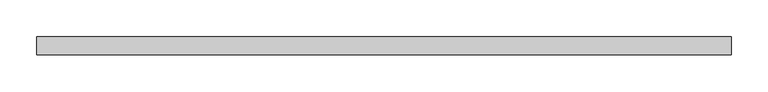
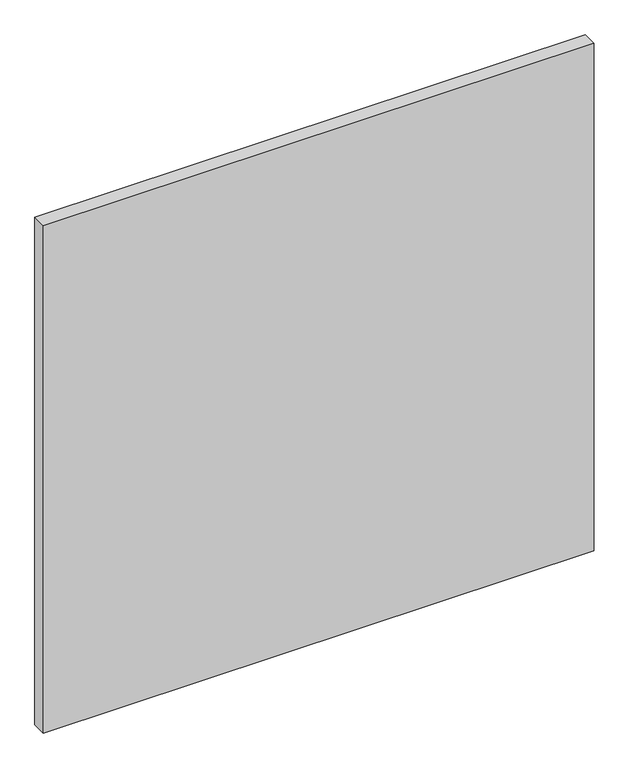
"""IFC4 building model written with IfcOpenShell, lengths in millimetres: plate geometry, Системная панель : ADSK_Cтеклопакет_25."""

import ifcopenshell
import ifcopenshell.guid

model = None  # the IFC model being written
_history = None  # IfcOwnerHistory: only IFC2X3 demands one
_inside = {}  # id of a spatial element -> (the spatial element, [elements in it])
_under = {}  # id of a project, library or spatial element -> (it, [spatial elements below it])
_declared = {}  # id of a project -> (the project, [libraries it declares])
_typed = {}  # id of a type object -> (the type object, [elements of that type])
_made_of = {}  # id of a material, layer set ... -> (it, [elements and type objects made of it])


def new_model(schema):
    """Start an empty IFC model of exactly this schema.

    Asked for "IFC4X3", IfcOpenShell would pick the latest addendum, in which some entities
    have other attributes; the version numbers below select the first issue.
    IFC2X3 requires an IfcOwnerHistory on every rooted entity: one is made here for all.
    """
    global model, _history
    if schema == "IFC4X3":
        model = ifcopenshell.file(schema_version=(4, 3, 0, 0))
    else:
        model = ifcopenshell.file(schema=schema)
    _inside.clear()
    _under.clear()
    _declared.clear()
    _typed.clear()
    _made_of.clear()
    _history = None
    if model.schema == "IFC2X3":
        org = make("IfcOrganization", Name="unknown")
        user = make(
            "IfcPersonAndOrganization",
            ThePerson=make("IfcPerson", FamilyName="unknown"),
            TheOrganization=org,
        )
        app = make(
            "IfcApplication",
            ApplicationDeveloper=org,
            Version="unknown",
            ApplicationFullName="unknown",
            ApplicationIdentifier="unknown",
        )
        _history = make(
            "IfcOwnerHistory",
            OwningUser=user,
            OwningApplication=app,
            ChangeAction="ADDED",
            CreationDate=0,
        )
    return model


def make(cls, **values):
    """One entity of the class cls with the attributes given. An attribute that is None is left unset."""
    return model.create_entity(
        cls, **{name: value for name, value in values.items() if value is not None}
    )


def rooted(cls, **values):
    """An entity with a GlobalId (a new one), such as an element, a storey or a relation."""
    return make(cls, GlobalId=ifcopenshell.guid.new(), OwnerHistory=_history, **values)


def si_unit(unit_type, name, prefix=None):
    """IfcSIUnit, for example si_unit("LENGTHUNIT", "METRE", prefix="MILLI")."""
    return make("IfcSIUnit", UnitType=unit_type, Prefix=prefix, Name=name)


def assignment(units):
    """IfcUnitAssignment: the units of a project."""
    return None if units is None else make("IfcUnitAssignment", Units=units)


def point(xyz):
    """IfcCartesianPoint."""
    return None if xyz is None else make("IfcCartesianPoint", Coordinates=xyz)


def direction(xyz):
    """IfcDirection."""
    return None if xyz is None else make("IfcDirection", DirectionRatios=xyz)


def frame(location, z_axis=None, x_axis=None):
    """IfcAxis2Placement3D, a coordinate frame: its origin and axes. An axis left out is left unset."""
    return make(
        "IfcAxis2Placement3D",
        Location=point(location),
        Axis=direction(z_axis),
        RefDirection=direction(x_axis),
    )


def origin():
    """The frame at (0, 0, 0) with its axes left unset."""
    return frame((0.0, 0.0, 0.0))


def origin_with_axes():
    """The frame at (0, 0, 0) with the z axis (0, 0, 1) and the x axis (1, 0, 0) written out."""
    return frame((0.0, 0.0, 0.0), z_axis=(0.0, 0.0, 1.0), x_axis=(1.0, 0.0, 0.0))


def place(relative_to, where):
    """IfcLocalPlacement: puts the frame where relative to a parent placement (None: the world)."""
    return make(
        "IfcLocalPlacement", PlacementRelTo=relative_to, RelativePlacement=where
    )


def context(
    kind, dimensions, precision=None, world=None, true_north=None, identifier=None
):
    """IfcGeometricRepresentationContext, for example the 3D "Model" context."""
    return make(
        "IfcGeometricRepresentationContext",
        ContextIdentifier=identifier,
        ContextType=kind,
        CoordinateSpaceDimension=dimensions,
        Precision=precision,
        WorldCoordinateSystem=world,
        TrueNorth=true_north,
    )


def project(units=None, contexts=None):
    """IfcProject with its units and contexts."""
    return rooted(
        "IfcProject",
        Name="project",
        RepresentationContexts=contexts,
        UnitsInContext=assignment(units),
    )


def spatial(cls, under=None, at=None, **own):
    """A site, building, storey or space (cls), placed at a placement, below another one or the project."""
    s = rooted(cls, ObjectPlacement=at, **own)
    if under is not None:
        _under.setdefault(under.id(), (under, []))[1].append(s)
    return s


def polyline(points):
    """IfcPolyline through the points."""
    return make("IfcPolyline", Points=[point(p) for p in points])


def outline(outer, holes=None, kind="AREA"):
    """IfcArbitraryClosedProfileDef: a profile drawn as a closed curve; with holes, ...WithVoids."""
    if holes is None:
        return make("IfcArbitraryClosedProfileDef", ProfileType=kind, OuterCurve=outer)
    return make(
        "IfcArbitraryProfileDefWithVoids",
        ProfileType=kind,
        OuterCurve=outer,
        InnerCurves=holes,
    )


def extrude(swept, where, along, depth):
    """IfcExtrudedAreaSolid: the profile swept, set in the frame where, extruded along a direction by depth."""
    return make(
        "IfcExtrudedAreaSolid",
        SweptArea=swept,
        Position=where,
        ExtrudedDirection=direction(along),
        Depth=depth,
    )


def shape(context_of_items, identifier, shape_type, items):
    """IfcShapeRepresentation: the items that make up one representation, for example the "Body"."""
    return make(
        "IfcShapeRepresentation",
        ContextOfItems=context_of_items,
        RepresentationIdentifier=identifier,
        RepresentationType=shape_type,
        Items=items,
    )


def source(mapping_origin, context_of_items, identifier, shape_type, items):
    """IfcRepresentationMap: a shape defined once, which mapped items show again and again."""
    return make(
        "IfcRepresentationMap",
        MappingOrigin=mapping_origin,
        MappedRepresentation=shape(context_of_items, identifier, shape_type, items),
    )


def transform(
    local_origin,
    x_axis=None,
    y_axis=None,
    z_axis=None,
    scale=None,
    scale2=None,
    scale3=None,
    uniform=True,
):
    """IfcCartesianTransformationOperator3D, or its non-uniform kind. x_axis, y_axis, z_axis: its Axis1, 2, 3."""
    if uniform:
        return make(
            "IfcCartesianTransformationOperator3D",
            Axis1=direction(x_axis),
            Axis2=direction(y_axis),
            LocalOrigin=point(local_origin),
            Scale=scale,
            Axis3=direction(z_axis),
        )
    return make(
        "IfcCartesianTransformationOperator3DnonUniform",
        Axis1=direction(x_axis),
        Axis2=direction(y_axis),
        LocalOrigin=point(local_origin),
        Scale=scale,
        Axis3=direction(z_axis),
        Scale2=scale2,
        Scale3=scale3,
    )


def mapped(mapping_source, mapping_target):
    """IfcMappedItem: shows the shape of a source again, moved by a transform."""
    return make(
        "IfcMappedItem", MappingSource=mapping_source, MappingTarget=mapping_target
    )


def made_of(thing, what):
    """Note that an element or type object is made of a material, layer set ...; save() writes the relation."""
    if what is not None:
        _made_of.setdefault(what.id(), (what, []))[1].append(thing)
    return thing


def element(
    cls,
    number,
    at=None,
    inside=None,
    cuts=None,
    type_object=None,
    material=None,
    context=None,
    identifier="Body",
    shape_type=None,
    held_by="IfcProductDefinitionShape",
    body=None,
    shapes=None,
    **own,
):
    """One element of the class cls, such as IfcWall. Its Tag is "e" and its number.

    at: its placement. inside: the storey or other place that contains it. cuts: it is an
    opening in that element (IfcRelVoidsElement). A single representation is given by context,
    identifier, shape_type and body (its items); several are given by shapes. held_by: the class
    of the entity that holds the representations. save() writes the other relations.
    """
    e = rooted(cls, Tag="e%d" % number, ObjectPlacement=at, **own)
    if body is not None:
        shapes = [shape(context, identifier, shape_type, body)]
    if shapes is not None:
        e.Representation = make(held_by, Representations=shapes)
    if inside is not None:
        _inside.setdefault(inside.id(), (inside, []))[1].append(e)
    if cuts is not None:
        rooted(
            "IfcRelVoidsElement", RelatingBuildingElement=cuts, RelatedOpeningElement=e
        )
    if type_object is not None:
        _typed.setdefault(type_object.id(), (type_object, []))[1].append(e)
    return made_of(e, material)


def aggregate(whole, parts):
    """IfcRelAggregates: a whole, such as a stair, and the parts it consists of."""
    return rooted("IfcRelAggregates", RelatingObject=whole, RelatedObjects=parts)


def save(model, path):
    """Write the relations noted so far, then the file.

    IfcRelAggregates (storeys below a building ...), IfcRelContainedInSpatialStructure (elements
    in a storey), IfcRelDefinesByType, IfcRelAssociatesMaterial and IfcRelDeclares: one each for
    every whole, place, type object, material and project.
    """
    for whole, parts in _under.values():
        aggregate(whole, parts)
    for where, things in _inside.values():
        rooted(
            "IfcRelContainedInSpatialStructure",
            RelatedElements=things,
            RelatingStructure=where,
        )
    for kind, things in _typed.values():
        rooted("IfcRelDefinesByType", RelatedObjects=things, RelatingType=kind)
    for what, things in _made_of.values():
        rooted("IfcRelAssociatesMaterial", RelatedObjects=things, RelatingMaterial=what)
    for by, libraries in _declared.values():
        rooted("IfcRelDeclares", RelatingContext=by, RelatedDefinitions=libraries)
    model.write(path)


def plate_4cc33baf(model_context):
    return source(origin(), model_context, "Body", "SweptSolid", [
        extrude(outline(polyline([(475.0, -12.5), (-475.0, -12.5), (-475.0, 12.5), (475.0, 12.5), (475.0, -12.5)])), origin_with_axes(), (0.0, 0.0, 1.0), 925.0),
    ])


if __name__ == "__main__":
    model = new_model("IFC4")
    model_context = context("Model", 3, world=origin())
    ifc_project = project(units=[si_unit("LENGTHUNIT", "METRE", prefix="MILLI")], contexts=[model_context])
    site = spatial("IfcSite", under=ifc_project)
    building = spatial("IfcBuilding", under=site)
    placement = place(None, origin())
    plate_shape = plate_4cc33baf(model_context)
    element("IfcPlate", 1, ObjectType="Системная панель : ADSK_Cтеклопакет_25", at=placement, inside=building, context=model_context, shape_type="MappedRepresentation", body=[
        mapped(plate_shape, transform((0.0, 0.0, 0.0), x_axis=(1.0, 0.0, 0.0), y_axis=(0.0, 1.0, 0.0), z_axis=(0.0, 0.0, 1.0))),
    ])
    save(model, "model.ifc")
